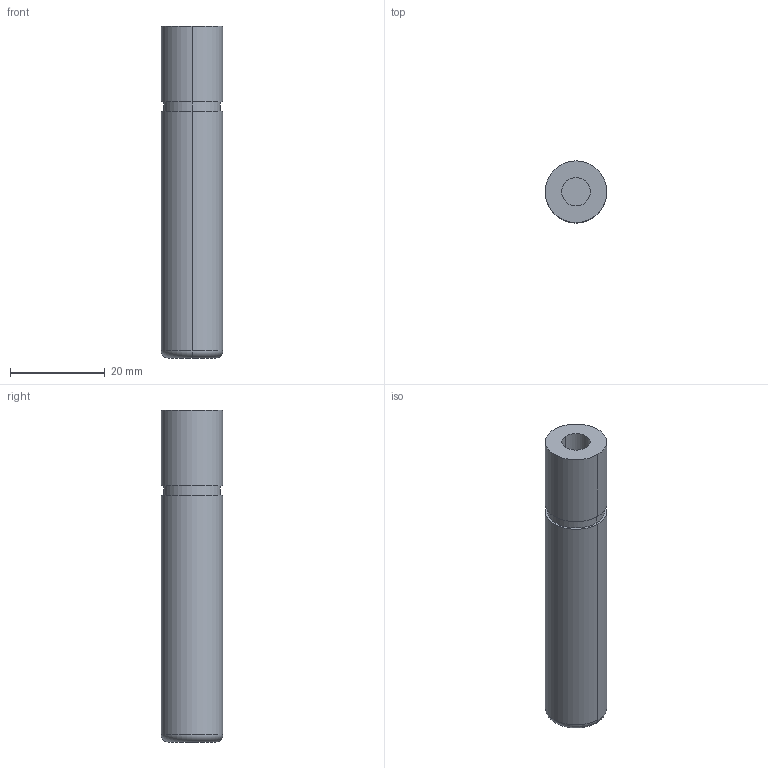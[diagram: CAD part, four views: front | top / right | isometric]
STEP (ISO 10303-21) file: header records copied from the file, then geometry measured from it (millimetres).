
FILE_DESCRIPTION(/* description */ (''),/* implementation_level */ '2;1');
FILE_NAME(/* name */ '3d_sgpn13-70_00279_r00.stp',/* time_stamp */ '2011-01-10T14:11:07+09:00',/* author */ ('MISUMI'),/* organization */ (''),/* preprocessor_version */ 'ST-DEVELOPER v11',/* originating_system */ 'UGS - NX 5.0',/* authorisation */ '');
FILE_SCHEMA (('CONFIG_CONTROL_DESIGN'));
Length unit declared in the file: millimetre
Products named in the file (1): 3d_sgpn13-70_00279_r00
Bounding box: 13 x 13 x 70 mm (x, y, z)
Volume: 8809.2 mm3; surface area: 3412.7 mm2
Topology: 1 solids, 1 shells, 15 faces, 28 edges, 18 vertices
Faces by surface type: cylinder 8, plane 5, torus 2
Entity records: 472 total; most frequent: DIRECTION 80, CARTESIAN_POINT 62, ORIENTED_EDGE 56, AXIS2_PLACEMENT_3D 36, EDGE_CURVE 28, CIRCLE 20, EDGE_LOOP 18, VERTEX_POINT 18
